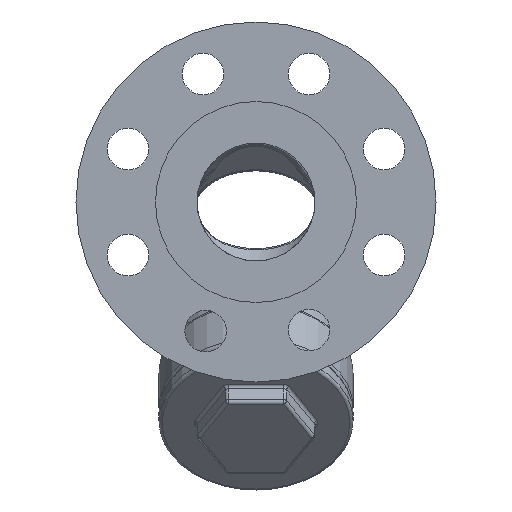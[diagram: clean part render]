
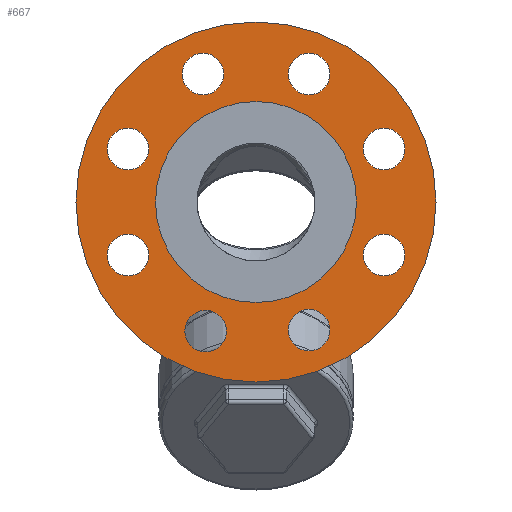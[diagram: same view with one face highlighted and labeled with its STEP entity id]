
A CAD part, front view. The second image highlights one B-rep face of the part: STEP entity #667.
In plain terms, the highlighted planar face has unit normal (0, -1, 0).
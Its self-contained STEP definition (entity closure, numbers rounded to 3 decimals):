
#667 = ADVANCED_FACE( '', ( #1411, #1412, #1413, #1414, #1415, #1416, #1417, #1418, #1419, #1420 ), #1421, .F. );
#1411 = FACE_BOUND( '', #10398, .T. );
#1412 = FACE_BOUND( '', #10399, .T. );
#1413 = FACE_BOUND( '', #10400, .T. );
#1414 = FACE_BOUND( '', #10401, .T. );
#1415 = FACE_BOUND( '', #10402, .T. );
#1416 = FACE_OUTER_BOUND( '', #10403, .T. );
#1417 = FACE_BOUND( '', #10404, .T. );
#1418 = FACE_BOUND( '', #10405, .T. );
#1419 = FACE_BOUND( '', #10406, .T. );
#1420 = FACE_BOUND( '', #10407, .T. );
#1421 = PLANE( '', #10408 );
#10398 = EDGE_LOOP( '', ( #13666 ) );
#10399 = EDGE_LOOP( '', ( #13667 ) );
#10400 = EDGE_LOOP( '', ( #13668 ) );
#10401 = EDGE_LOOP( '', ( #13669 ) );
#10402 = EDGE_LOOP( '', ( #13670 ) );
#10403 = EDGE_LOOP( '', ( #13671 ) );
#10404 = EDGE_LOOP( '', ( #13672 ) );
#10405 = EDGE_LOOP( '', ( #13673 ) );
#10406 = EDGE_LOOP( '', ( #13674 ) );
#10407 = EDGE_LOOP( '', ( #13675 ) );
#10408 = AXIS2_PLACEMENT_3D( '', #13676, #13677, #13678 );
#13666 = ORIENTED_EDGE( '', *, *, #14502, .T. );
#13667 = ORIENTED_EDGE( '', *, *, #14048, .T. );
#13668 = ORIENTED_EDGE( '', *, *, #14051, .T. );
#13669 = ORIENTED_EDGE( '', *, *, #14377, .T. );
#13670 = ORIENTED_EDGE( '', *, *, #14350, .T. );
#13671 = ORIENTED_EDGE( '', *, *, #14020, .F. );
#13672 = ORIENTED_EDGE( '', *, *, #14431, .T. );
#13673 = ORIENTED_EDGE( '', *, *, #14401, .T. );
#13674 = ORIENTED_EDGE( '', *, *, #14407, .T. );
#13675 = ORIENTED_EDGE( '', *, *, #14085, .T. );
#13676 = CARTESIAN_POINT( '', ( 0., 1.6, 0. ) );
#13677 = DIRECTION( '', ( 0., 1., 0. ) );
#13678 = DIRECTION( '', ( 0., 0., 1. ) );
#14020 = EDGE_CURVE( '', #14867, #14867, #14868, .T. );
#14048 = EDGE_CURVE( '', #14915, #14915, #14916, .T. );
#14051 = EDGE_CURVE( '', #14920, #14920, #14921, .T. );
#14085 = EDGE_CURVE( '', #14974, #14974, #14975, .T. );
#14350 = EDGE_CURVE( '', #15333, #15333, #15334, .T. );
#14377 = EDGE_CURVE( '', #15368, #15368, #15369, .T. );
#14401 = EDGE_CURVE( '', #15396, #15396, #15397, .T. );
#14407 = EDGE_CURVE( '', #15404, #15404, #15405, .T. );
#14431 = EDGE_CURVE( '', #15435, #15435, #15436, .T. );
#14502 = EDGE_CURVE( '', #15517, #15517, #15518, .T. );
#14867 = VERTEX_POINT( '', #16727 );
#14868 = CIRCLE( '', #16728, 82.5 );
#14915 = VERTEX_POINT( '', #17484 );
#14916 = CIRCLE( '', #17485, 9.525 );
#14920 = VERTEX_POINT( '', #17489 );
#14921 = CIRCLE( '', #17490, 9.525 );
#14974 = VERTEX_POINT( '', #17929 );
#14975 = CIRCLE( '', #17930, 9.525 );
#15333 = VERTEX_POINT( '', #20978 );
#15334 = CIRCLE( '', #20979, 46.05 );
#15368 = VERTEX_POINT( '', #21118 );
#15369 = CIRCLE( '', #21119, 9.525 );
#15396 = VERTEX_POINT( '', #21190 );
#15397 = CIRCLE( '', #21191, 9.525 );
#15404 = VERTEX_POINT( '', #21198 );
#15405 = CIRCLE( '', #21199, 9.525 );
#15435 = VERTEX_POINT( '', #21377 );
#15436 = CIRCLE( '', #21378, 9.525 );
#15517 = VERTEX_POINT( '', #21971 );
#15518 = CIRCLE( '', #21972, 9.525 );
#16727 = CARTESIAN_POINT( '', ( 0., 1.6, 82.5 ) );
#16728 = AXIS2_PLACEMENT_3D( '', #22253, #22254, #22255 );
#17484 = CARTESIAN_POINT( '', ( -58.666, 1.6, 14.775 ) );
#17485 = AXIS2_PLACEMENT_3D( '', #22280, #22281, #22282 );
#17489 = CARTESIAN_POINT( '', ( -23.093, 1.6, -68.677 ) );
#17490 = AXIS2_PLACEMENT_3D( '', #22286, #22287, #22288 );
#17929 = CARTESIAN_POINT( '', ( 58.666, 1.6, 14.775 ) );
#17930 = AXIS2_PLACEMENT_3D( '', #22313, #22314, #22315 );
#20978 = CARTESIAN_POINT( '', ( 0., 1.6, -46.05 ) );
#20979 = AXIS2_PLACEMENT_3D( '', #22565, #22566, #22567 );
#21118 = CARTESIAN_POINT( '', ( 58.666, 1.6, -33.825 ) );
#21119 = AXIS2_PLACEMENT_3D( '', #22593, #22594, #22595 );
#21190 = CARTESIAN_POINT( '', ( -58.666, 1.6, -33.825 ) );
#21191 = AXIS2_PLACEMENT_3D( '', #22623, #22624, #22625 );
#21198 = CARTESIAN_POINT( '', ( -24.3, 1.6, 49.141 ) );
#21199 = AXIS2_PLACEMENT_3D( '', #22635, #22636, #22637 );
#21377 = CARTESIAN_POINT( '', ( 24.3, 1.6, -68.191 ) );
#21378 = AXIS2_PLACEMENT_3D( '', #22658, #22659, #22660 );
#21971 = CARTESIAN_POINT( '', ( 24.3, 1.6, 49.141 ) );
#21972 = AXIS2_PLACEMENT_3D( '', #22732, #22733, #22734 );
#22253 = CARTESIAN_POINT( '', ( 0., 1.6, 0. ) );
#22254 = DIRECTION( '', ( 0., 1., 0. ) );
#22255 = DIRECTION( '', ( 0., 0., 1. ) );
#22280 = CARTESIAN_POINT( '', ( -58.666, 1.6, 24.3 ) );
#22281 = DIRECTION( '', ( 0., 1., 0. ) );
#22282 = DIRECTION( '', ( 0., 0., -1. ) );
#22286 = CARTESIAN_POINT( '', ( -23.093, 1.6, -59.152 ) );
#22287 = DIRECTION( '', ( 0., 1., 0. ) );
#22288 = DIRECTION( '', ( 0., 0., -1. ) );
#22313 = CARTESIAN_POINT( '', ( 58.666, 1.6, 24.3 ) );
#22314 = DIRECTION( '', ( 0., 1., 0. ) );
#22315 = DIRECTION( '', ( 0., 0., -1. ) );
#22565 = CARTESIAN_POINT( '', ( 0., 1.6, 0. ) );
#22566 = DIRECTION( '', ( 0., 1., 0. ) );
#22567 = DIRECTION( '', ( 0., 0., -1. ) );
#22593 = CARTESIAN_POINT( '', ( 58.666, 1.6, -24.3 ) );
#22594 = DIRECTION( '', ( 0., 1., 0. ) );
#22595 = DIRECTION( '', ( 0., 0., -1. ) );
#22623 = CARTESIAN_POINT( '', ( -58.666, 1.6, -24.3 ) );
#22624 = DIRECTION( '', ( 0., 1., 0. ) );
#22625 = DIRECTION( '', ( 0., 0., -1. ) );
#22635 = CARTESIAN_POINT( '', ( -24.3, 1.6, 58.666 ) );
#22636 = DIRECTION( '', ( 0., 1., 0. ) );
#22637 = DIRECTION( '', ( 0., 0., -1. ) );
#22658 = CARTESIAN_POINT( '', ( 24.3, 1.6, -58.666 ) );
#22659 = DIRECTION( '', ( 0., 1., 0. ) );
#22660 = DIRECTION( '', ( 0., 0., -1. ) );
#22732 = CARTESIAN_POINT( '', ( 24.3, 1.6, 58.666 ) );
#22733 = DIRECTION( '', ( 0., 1., 0. ) );
#22734 = DIRECTION( '', ( 0., 0., -1. ) );
